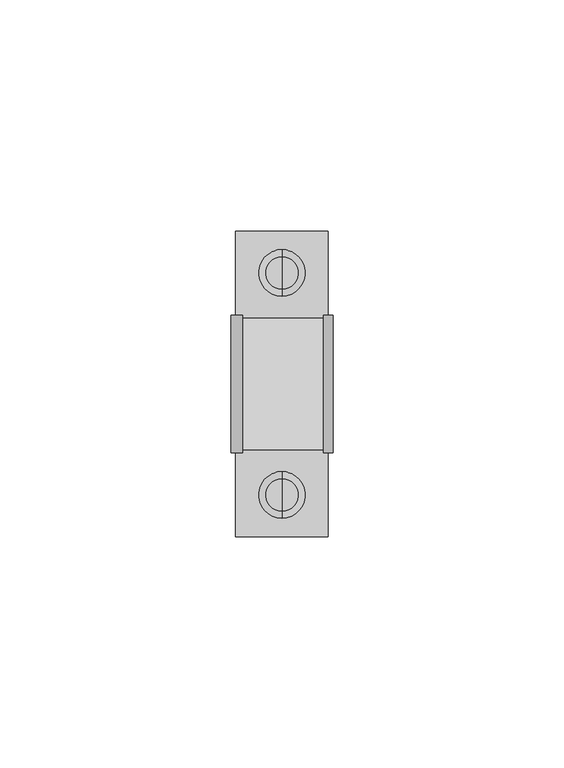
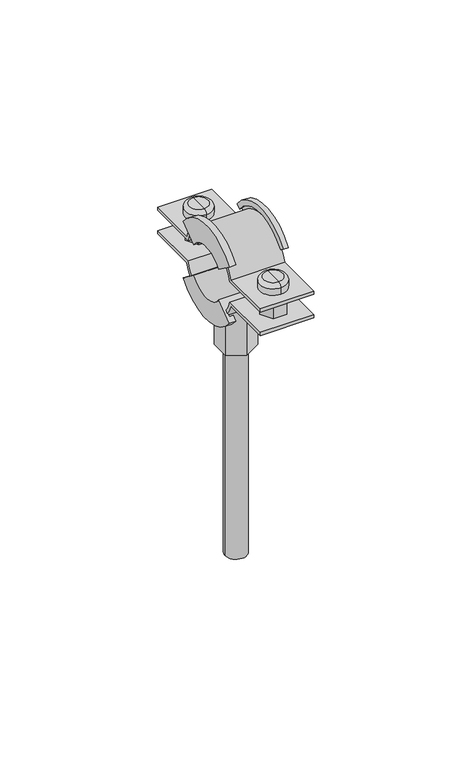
"""IFC4 building model written with IfcOpenShell, lengths in millimetres: pipe fitting geometry, NIRON abrazadera isofonica lisa : Estándard."""

from ifc_helpers import new_model, si_unit, point, frame, origin, origin_2d, place, context, project, spatial, polyline, circle_curve, ellipse_curve, trimmed, segment, composite_curve, outline, extrude, source, transform, mapped, element, save
from ifc_brep_helpers import plane_surface, cylinder_surface, revolved_surface, advanced_brep


def pipe_fitting_fc2bf0e4(model_context):
    return source(origin(), model_context, "Body", "SolidModel", [
        advanced_brep(
        [(0.0, 20.0, -7.8), (0.0, 20.0, -4.8), (0.0, 28.0, -4.8), (0.0, 28.0, -7.8), (0.0, 24.0, -7.8), (0.0, 24.0, -4.8)],
        [
            (0, 1),
            (1, 2, circle_curve(frame((0.0, 24.0, -4.8), z_axis=(0.0, 0.0, -1.0), x_axis=(0.0, 1.0, 0.0)), 4.0)),
            (2, 3),
            (3, 0, circle_curve(frame((0.0, 24.0, -7.8), z_axis=(0.0, 0.0, 1.0), x_axis=(0.0, 1.0, 0.0)), 4.0)),
            (2, 1, circle_curve(frame((0.0, 24.0, -4.8), z_axis=(0.0, 0.0, -1.0), x_axis=(0.0, 1.0, 0.0)), 4.0)),
            (0, 3, circle_curve(frame((0.0, 24.0, -7.8), z_axis=(0.0, 0.0, 1.0), x_axis=(0.0, 1.0, 0.0)), 4.0)),
            (4, 0),
            (3, 4),
            (1, 5),
            (5, 2),
        ],
        [
            cylinder_surface(frame((0.0, 24.0, -110.5332781), z_axis=(0.0, 0.0, -1.0), x_axis=(0.0, 1.0, 0.0)), 4.0),
            plane_surface(frame((0.0, 24.0, -7.8), z_axis=(0.0, 0.0, -1.0), x_axis=(0.0, 1.0, 0.0))),
            plane_surface(frame((0.0, 24.0, -4.8), z_axis=(0.0, 0.0, 1.0), x_axis=(0.0, 1.0, 0.0))),
        ],
        [
            (0, [[1, 2, 3, 4]]),
            (0, [[-3, 5, -1, 6]]),
            (1, [[7, -4, 8]]),
            (1, [[-8, -6, -7]]),
            (2, [[9, 10, -2]]),
            (2, [[-10, -9, -5]]),
        ],
    ),
        advanced_brep(
        [(0.0, 24.0, 4.8), (0.0, 19.0, 4.8), (0.0, 29.0, 4.8), (0.0, 19.0, 7.3), (0.0, 29.0, 7.3), (0.0, 20.5, 8.8), (0.0, 24.0, 8.8), (0.0, 27.5, 8.8)],
        [
            (0, 1),
            (1, 2, circle_curve(frame((0.0, 24.0, 4.8), z_axis=(0.0, 0.0, -1.0), x_axis=(0.0, 1.0, 0.0)), 5.0)),
            (2, 0),
            (2, 1, circle_curve(frame((0.0, 24.0, 4.8), z_axis=(0.0, 0.0, -1.0), x_axis=(0.0, 1.0, 0.0)), 5.0)),
            (1, 3),
            (3, 4, circle_curve(frame((0.0, 24.0, 7.3), z_axis=(0.0, 0.0, -1.0), x_axis=(0.0, 1.0, 0.0)), 5.0)),
            (4, 2),
            (4, 3, circle_curve(frame((0.0, 24.0, 7.3), z_axis=(0.0, 0.0, -1.0), x_axis=(0.0, 1.0, 0.0)), 5.0)),
            (5, 6),
            (6, 7),
            (7, 5, circle_curve(frame((0.0, 24.0, 8.8), z_axis=(0.0, 0.0, 1.0), x_axis=(0.0, 1.0, 0.0)), 3.5)),
            (5, 7, circle_curve(frame((0.0, 24.0, 8.8), z_axis=(0.0, 0.0, 1.0), x_axis=(0.0, 1.0, 0.0)), 3.5)),
            (3, 5, circle_curve(frame((0.0, 20.5, 7.3), z_axis=(-1.0, 0.0, 0.0), x_axis=(0.0, 1.0, 0.0)), 1.5)),
            (7, 4, circle_curve(frame((0.0, 27.5, 7.3), z_axis=(-1.0, 0.0, 0.0), x_axis=(0.0, -1.0, 0.0)), 1.5)),
        ],
        [
            plane_surface(frame((0.0, 24.0, 4.8), z_axis=(0.0, 0.0, -1.0), x_axis=(0.0, 1.0, 0.0))),
            cylinder_surface(frame((0.0, 24.0, 9.8), z_axis=(0.0, 0.0, -1.0), x_axis=(0.0, 1.0, 0.0)), 5.0),
            plane_surface(frame((0.0, 24.0, 8.8), z_axis=(0.0, 0.0, 1.0), x_axis=(0.0, 1.0, 0.0))),
            revolved_surface(trimmed(ellipse_curve(frame((0.0, 27.5, 7.3), z_axis=(-1.0, 0.0, 0.0), x_axis=(0.0, -1.0, 0.0)), 1.5, 1.5), [point((0.0, 27.5, 8.8))], [point((0.0, 29.0, 7.3))], True, "CARTESIAN"), (0.0, 24.0, 9.8), (0.0, 0.0, -1.0)),
        ],
        [
            (0, [[1, 2, 3]]),
            (0, [[-3, 4, -1]]),
            (1, [[5, 6, 7, -2]]),
            (1, [[-7, 8, -5, -4]]),
            (2, [[9, 10, 11]]),
            (2, [[-10, -9, 12]]),
            (3, [[13, -11, 14, -6]]),
            (3, [[-14, -12, -13, -8]]),
        ],
    ),
        advanced_brep(
        [(0.0, -20.0, -7.4875), (0.0, -28.0, -7.4875), (0.0, -28.0, -4.4875), (0.0, -20.0, -4.4875), (0.0, -24.0, -7.4875), (0.0, -24.0, -4.4875)],
        [
            (0, 1, circle_curve(frame((0.0, -24.0, -7.4875), z_axis=(0.0, 0.0, 1.0), x_axis=(0.0, -1.0, 0.0)), 4.0)),
            (1, 2),
            (2, 3, circle_curve(frame((0.0, -24.0, -4.4875), z_axis=(0.0, 0.0, -1.0), x_axis=(0.0, -1.0, 0.0)), 4.0)),
            (3, 0),
            (1, 0, circle_curve(frame((0.0, -24.0, -7.4875), z_axis=(0.0, 0.0, 1.0), x_axis=(0.0, -1.0, 0.0)), 4.0)),
            (3, 2, circle_curve(frame((0.0, -24.0, -4.4875), z_axis=(0.0, 0.0, -1.0), x_axis=(0.0, -1.0, 0.0)), 4.0)),
            (4, 1),
            (0, 4),
            (2, 5),
            (5, 3),
        ],
        [
            cylinder_surface(frame((0.0, -24.0, -110.2207781), z_axis=(0.0, 0.0, -1.0), x_axis=(0.0, -1.0, 0.0)), 4.0),
            plane_surface(frame((0.0, -24.0, -7.4875), z_axis=(0.0, 0.0, -1.0), x_axis=(0.0, -1.0, 0.0))),
            plane_surface(frame((0.0, -24.0, -4.4875), z_axis=(0.0, 0.0, 1.0), x_axis=(0.0, -1.0, 0.0))),
        ],
        [
            (0, [[1, 2, 3, 4]]),
            (0, [[5, -4, 6, -2]]),
            (1, [[7, -1, 8]]),
            (1, [[-8, -5, -7]]),
            (2, [[-3, 9, 10]]),
            (2, [[-6, -10, -9]]),
        ],
    ),
        advanced_brep(
        [(0.0, -24.0, 5.1125), (0.0, -29.0, 5.1125), (0.0, -19.0, 5.1125), (0.0, -29.0, 7.6125), (0.0, -19.0, 7.6125), (0.0, -20.5, 9.1125), (0.0, -27.5, 9.1125), (0.0, -24.0, 9.1125)],
        [
            (0, 1),
            (1, 2, circle_curve(frame((0.0, -24.0, 5.1125), z_axis=(0.0, 0.0, -1.0), x_axis=(0.0, -1.0, 0.0)), 5.0)),
            (2, 0),
            (2, 1, circle_curve(frame((0.0, -24.0, 5.1125), z_axis=(0.0, 0.0, -1.0), x_axis=(0.0, -1.0, 0.0)), 5.0)),
            (1, 3),
            (3, 4, circle_curve(frame((0.0, -24.0, 7.6125), z_axis=(0.0, 0.0, -1.0), x_axis=(0.0, -1.0, 0.0)), 5.0)),
            (4, 2),
            (4, 3, circle_curve(frame((0.0, -24.0, 7.6125), z_axis=(0.0, 0.0, -1.0), x_axis=(0.0, -1.0, 0.0)), 5.0)),
            (5, 6, circle_curve(frame((0.0, -24.0, 9.1125), z_axis=(0.0, 0.0, 1.0), x_axis=(0.0, -1.0, 0.0)), 3.5)),
            (6, 7),
            (7, 5),
            (6, 5, circle_curve(frame((0.0, -24.0, 9.1125), z_axis=(0.0, 0.0, 1.0), x_axis=(0.0, -1.0, 0.0)), 3.5)),
            (3, 6, circle_curve(frame((0.0, -27.5, 7.6125), z_axis=(-1.0, 0.0, 0.0), x_axis=(0.0, 1.0, 0.0)), 1.5)),
            (5, 4, circle_curve(frame((0.0, -20.5, 7.6125), z_axis=(-1.0, 0.0, 0.0), x_axis=(0.0, -1.0, 0.0)), 1.5)),
        ],
        [
            plane_surface(frame((0.0, -24.0, 5.1125), z_axis=(0.0, 0.0, -1.0), x_axis=(0.0, -1.0, 0.0))),
            cylinder_surface(frame((0.0, -24.0, 10.1125), z_axis=(0.0, 0.0, -1.0), x_axis=(0.0, -1.0, 0.0)), 5.0),
            plane_surface(frame((0.0, -24.0, 9.1125), z_axis=(0.0, 0.0, 1.0), x_axis=(0.0, -1.0, 0.0))),
            revolved_surface(trimmed(ellipse_curve(frame((0.0, -27.5, 7.6125), z_axis=(1.0, 0.0, 0.0), x_axis=(0.0, 1.0, 0.0)), 1.5, 1.5), [point((0.0, -27.5, 9.1125))], [point((0.0, -29.0, 7.6125))], True, "CARTESIAN"), (0.0, -24.0, 10.1125), (0.0, 0.0, -1.0)),
        ],
        [
            (0, [[1, 2, 3]]),
            (0, [[-3, 4, -1]]),
            (1, [[-2, 5, 6, 7]]),
            (1, [[-4, -7, 8, -5]]),
            (2, [[9, 10, 11]]),
            (2, [[12, -11, -10]]),
            (3, [[-6, 13, -9, 14]]),
            (3, [[-8, -14, -12, -13]]),
        ],
    ),
        extrude(outline(polyline([(2.5, 19.669873), (-2.5, 19.669873), (-5.0, 24.0), (-2.5, 28.330127), (2.5, 28.330127), (5.0, 24.0), (2.5, 19.669873)])), frame((0.0, 0.0, -4.0), z_axis=(0.0, 0.0, 1.0), x_axis=(1.0, 0.0, 0.0)), (0.0, 0.0, 1.0), 8.0),
        extrude(outline(polyline([(2.5, -19.669873), (5.0, -24.0), (2.5, -28.330127), (-2.5, -28.330127), (-5.0, -24.0), (-2.5, -19.669873), (2.5, -19.669873)])), frame((0.0, 0.0, -4.0), z_axis=(0.0, 0.0, 1.0), x_axis=(1.0, 0.0, 0.0)), (0.0, 0.0, 1.0), 8.0),
        advanced_brep(
        [(11.0, -8.0350101, 6.0), (11.0, -14.8245937, 11.0303136), (9.0, -14.8245937, 11.0303136), (9.0, -13.2175917, 9.8397068), (10.0, -13.2175917, 9.8397068), (10.0, -11.6105896, 8.6491001), (-10.0, -11.6105896, 8.6491001), (-10.0, -13.2175917, 9.8397068), (-8.5466338, -13.2175917, 9.8397068), (-8.5466338, -14.8245937, 11.0303136), (-11.0, -14.8245937, 11.0303136), (-11.0, -8.0350101, 6.0), (11.0, 8.0350101, 6.0), (-11.0, 8.0350101, 6.0), (-11.0, 14.8245937, 11.0303136), (-8.5466338, 14.8245937, 11.0303136), (-8.5466338, 13.2175917, 9.8397068), (-10.0, 13.2175917, 9.8397068), (-10.0, 11.6105896, 8.6491001), (10.0, 11.6105896, 8.6491001), (10.0, 13.2175917, 9.8397068), (9.0, 13.2175917, 9.8397068), (9.0, 14.8245937, 11.0303136), (11.0, 14.8245937, 11.0303136)],
        [
            (0, 1),
            (1, 2),
            (2, 3),
            (3, 4),
            (4, 5),
            (5, 6),
            (6, 7),
            (7, 8),
            (8, 9),
            (9, 10),
            (10, 11),
            (11, 0),
            (12, 13),
            (13, 14),
            (14, 15),
            (15, 16),
            (16, 17),
            (17, 18),
            (18, 19),
            (19, 20),
            (20, 21),
            (21, 22),
            (22, 23),
            (23, 12),
            (12, 0, circle_curve(frame((11.0, 0.0, 0.0469661), z_axis=(1.0, 0.0, 0.0), x_axis=(0.0, -0.8035010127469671, 0.5953033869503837)), 10.0)),
            (11, 13, circle_curve(frame((-11.0, 0.0, 0.0469661), z_axis=(-1.0, 0.0, 0.0), x_axis=(0.0, -0.8035010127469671, 0.5953033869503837)), 10.0)),
            (10, 14, circle_curve(frame((-11.0, 0.0, 0.0469661), z_axis=(-1.0, 0.0, 0.0), x_axis=(0.0, -0.8035010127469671, 0.5953033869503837)), 18.45)),
            (9, 15, circle_curve(frame((-8.5466338, 0.0, 0.0469661), z_axis=(-1.0, 0.0, 0.0), x_axis=(0.0, -0.8035010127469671, 0.5953033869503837)), 18.45)),
            (8, 16, circle_curve(frame((-8.5466338, 0.0, 0.0469661), z_axis=(-1.0, 0.0, 0.0), x_axis=(0.0, -0.8035010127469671, 0.5953033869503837)), 16.45)),
            (7, 17, circle_curve(frame((-10.0, 0.0, 0.0469661), z_axis=(-1.0, 0.0, 0.0), x_axis=(0.0, -0.8035010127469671, 0.5953033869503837)), 16.45)),
            (6, 18, circle_curve(frame((-10.0, 0.0, 0.0469661), z_axis=(-1.0, 0.0, 0.0), x_axis=(0.0, -0.8035010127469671, 0.5953033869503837)), 14.45)),
            (5, 19, circle_curve(frame((10.0, 0.0, 0.0469661), z_axis=(-1.0, 0.0, 0.0), x_axis=(0.0, -0.8035010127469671, 0.5953033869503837)), 14.45)),
            (4, 20, circle_curve(frame((10.0, 0.0, 0.0469661), z_axis=(-1.0, 0.0, 0.0), x_axis=(0.0, -0.8035010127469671, 0.5953033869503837)), 16.45)),
            (3, 21, circle_curve(frame((9.0, 0.0, 0.0469661), z_axis=(-1.0, 0.0, 0.0), x_axis=(0.0, -0.8035010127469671, 0.5953033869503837)), 16.45)),
            (2, 22, circle_curve(frame((9.0, 0.0, 0.0469661), z_axis=(-1.0, 0.0, 0.0), x_axis=(0.0, -0.8035010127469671, 0.5953033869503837)), 18.45)),
            (1, 23, circle_curve(frame((11.0, 0.0, 0.0469661), z_axis=(-1.0, 0.0, 0.0), x_axis=(0.0, -0.8035010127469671, 0.5953033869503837)), 18.45)),
        ],
        [
            plane_surface(frame((0.0, -8.0350101, 6.0), z_axis=(0.0, -0.5953033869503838, -0.8035010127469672), x_axis=(1.0, 0.0, 0.0))),
            plane_surface(frame((0.0, 8.0350101, 6.0), z_axis=(0.0, 0.5953033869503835, -0.8035010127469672), x_axis=(1.0, 0.0, 0.0))),
            revolved_surface(polyline([(-11.0, -8.03501012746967, 5.999999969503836), (11.0, -8.03501012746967, 5.999999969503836)]), (0.0, 0.0, 0.0469661), (-1.0, 0.0, 0.0)),
            plane_surface(frame((-11.0, 0.0, 0.0469661), z_axis=(-1.0000000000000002, 0.0, 0.0), x_axis=(0.0, -0.8035010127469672, 0.5953033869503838))),
            cylinder_surface(frame((0.0, 0.0, 0.0469661), z_axis=(-1.0, 0.0, 0.0), x_axis=(0.0, -0.8035010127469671, 0.5953033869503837)), 18.45),
            plane_surface(frame((-8.5466338, 0.0, 0.0469661), z_axis=(1.0000000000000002, 0.0, 0.0), x_axis=(0.0, -0.8035010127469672, 0.5953033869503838))),
            revolved_surface(polyline([(-10.0, -13.217591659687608, 9.83970681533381), (-8.5466338, -13.217591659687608, 9.83970681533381)]), (0.0, 0.0, 0.0469661), (-1.0, 0.0, 0.0)),
            plane_surface(frame((-10.0, 0.0, 0.0469661), z_axis=(1.0000000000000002, 0.0, 0.0), x_axis=(0.0, -0.8035010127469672, 0.5953033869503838))),
            cylinder_surface(frame((0.0, 0.0, 0.0469661), z_axis=(-1.0, 0.0, 0.0), x_axis=(0.0, -0.8035010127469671, 0.5953033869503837)), 14.45),
            plane_surface(frame((10.0, 0.0, 0.0469661), z_axis=(-1.0000000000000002, 0.0, 0.0), x_axis=(0.0, -0.8035010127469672, 0.5953033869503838))),
            revolved_surface(polyline([(9.0, -13.217591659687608, 9.83970681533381), (10.0, -13.217591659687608, 9.83970681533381)]), (0.0, 0.0, 0.0469661), (-1.0, 0.0, 0.0)),
            plane_surface(frame((9.0, 0.0, 0.0469661), z_axis=(-1.0000000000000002, 0.0, 0.0), x_axis=(0.0, -0.8035010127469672, 0.5953033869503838))),
            plane_surface(frame((11.0, 0.0, 0.0469661), z_axis=(1.0000000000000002, 0.0, 0.0), x_axis=(0.0, -0.8035010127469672, 0.5953033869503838))),
        ],
        [
            (0, [[1, 2, 3, 4, 5, 6, 7, 8, 9, 10, 11, 12]]),
            (1, [[13, 14, 15, 16, 17, 18, 19, 20, 21, 22, 23, 24]]),
            (2, [[25, -12, 26, -13]]),
            (3, [[-26, -11, 27, -14]]),
            (4, [[-27, -10, 28, -15]]),
            (5, [[-28, -9, 29, -16]]),
            (6, [[-29, -8, 30, -17]]),
            (7, [[-30, -7, 31, -18]]),
            (8, [[-31, -6, 32, -19]]),
            (9, [[-32, -5, 33, -20]]),
            (10, [[-33, -4, 34, -21]]),
            (11, [[-34, -3, 35, -22]]),
            (4, [[-35, -2, 36, -23]]),
            (12, [[-36, -1, -25, -24]]),
        ],
    ),
        extrude(outline(composite_curve([segment(trimmed(circle_curve(origin_2d(), 14.0), [point((-13.4164079, -4.0))], [point((13.4164079, -4.0))], True, "CARTESIAN"), True, "CONTINUOUS"), segment(polyline([(13.4164079, -4.0), (33.0, -4.0), (33.0, -5.25), (14.3178211, -5.25)]), True, "CONTINUOUS"), segment(trimmed(circle_curve(origin_2d(), 15.25), [point((14.3178211, -5.25))], [point((-14.3178211, -5.25))], False, "CARTESIAN"), True, "CONTINUOUS"), segment(polyline([(-14.3178211, -5.25), (-33.0, -5.25), (-33.0, -4.0), (-13.4164079, -4.0)]), True, "CONTINUOUS")], self_intersect=False)), frame((-10.0, 0.0, 0.0), z_axis=(1.0, 0.0, 0.0), x_axis=(0.0, 1.0, 0.0)), (0.0, 0.0, 1.0), 20.0),
        advanced_brep(
        [(11.0, -8.0, -6.0), (-11.0, -8.0, -6.0), (-11.0, -14.76, -11.07), (-8.5466338, -14.76, -11.07), (-8.5466338, -13.16, -9.87), (-10.0, -13.16, -9.87), (-10.0, -11.56, -8.67), (10.0, -11.56, -8.67), (10.0, -13.16, -9.87), (9.0, -13.16, -9.87), (9.0, -14.76, -11.07), (11.0, -14.76, -11.07), (11.0, 8.0, -6.0), (11.0, 14.76, -11.07), (9.0, 14.76, -11.07), (9.0, 13.16, -9.87), (10.0, 13.16, -9.87), (10.0, 11.56, -8.67), (-10.0, 11.56, -8.67), (-10.0, 13.16, -9.87), (-8.5466338, 13.16, -9.87), (-8.5466338, 14.76, -11.07), (-11.0, 14.76, -11.07), (-11.0, 8.0, -6.0)],
        [
            (0, 1),
            (1, 2),
            (2, 3),
            (3, 4),
            (4, 5),
            (5, 6),
            (6, 7),
            (7, 8),
            (8, 9),
            (9, 10),
            (10, 11),
            (11, 0),
            (12, 13),
            (13, 14),
            (14, 15),
            (15, 16),
            (16, 17),
            (17, 18),
            (18, 19),
            (19, 20),
            (20, 21),
            (21, 22),
            (22, 23),
            (23, 12),
            (23, 1, circle_curve(frame((-11.0, 0.0, 0.0), z_axis=(-1.0, 0.0, 0.0), x_axis=(0.0, -0.8000000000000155, -0.5999999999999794)), 10.0)),
            (0, 12, circle_curve(frame((11.0, 0.0, 0.0), z_axis=(1.0, 0.0, 0.0), x_axis=(0.0, -0.8000000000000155, -0.5999999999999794)), 10.0)),
            (22, 2, circle_curve(frame((-11.0, 0.0, 0.0), z_axis=(-1.0, 0.0, 0.0), x_axis=(0.0, -0.8000000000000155, -0.5999999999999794)), 18.45)),
            (21, 3, circle_curve(frame((-8.5466338, 0.0, 0.0), z_axis=(-1.0, 0.0, 0.0), x_axis=(0.0, -0.8000000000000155, -0.5999999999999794)), 18.45)),
            (20, 4, circle_curve(frame((-8.5466338, 0.0, 0.0), z_axis=(-1.0, 0.0, 0.0), x_axis=(0.0, -0.8000000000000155, -0.5999999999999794)), 16.45)),
            (19, 5, circle_curve(frame((-10.0, 0.0, 0.0), z_axis=(-1.0, 0.0, 0.0), x_axis=(0.0, -0.8000000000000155, -0.5999999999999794)), 16.45)),
            (18, 6, circle_curve(frame((-10.0, 0.0, 0.0), z_axis=(-1.0, 0.0, 0.0), x_axis=(0.0, -0.8000000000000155, -0.5999999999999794)), 14.45)),
            (17, 7, circle_curve(frame((10.0, 0.0, 0.0), z_axis=(-1.0, 0.0, 0.0), x_axis=(0.0, -0.8000000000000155, -0.5999999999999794)), 14.45)),
            (16, 8, circle_curve(frame((10.0, 0.0, 0.0), z_axis=(-1.0, 0.0, 0.0), x_axis=(0.0, -0.8000000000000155, -0.5999999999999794)), 16.45)),
            (15, 9, circle_curve(frame((9.0, 0.0, 0.0), z_axis=(-1.0, 0.0, 0.0), x_axis=(0.0, -0.8000000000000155, -0.5999999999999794)), 16.45)),
            (14, 10, circle_curve(frame((9.0, 0.0, 0.0), z_axis=(-1.0, 0.0, 0.0), x_axis=(0.0, -0.8000000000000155, -0.5999999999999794)), 18.45)),
            (13, 11, circle_curve(frame((11.0, 0.0, 0.0), z_axis=(-1.0, 0.0, 0.0), x_axis=(0.0, -0.8000000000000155, -0.5999999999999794)), 18.45)),
        ],
        [
            plane_surface(frame((0.0, -8.0, -6.0), z_axis=(0.0, -0.5999999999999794, 0.8000000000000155), x_axis=(1.0, 0.0, 0.0))),
            plane_surface(frame((0.0, 8.0, -6.0), z_axis=(0.0, 0.5999999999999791, 0.8000000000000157), x_axis=(1.0, 0.0, 0.0))),
            revolved_surface(polyline([(11.0, -8.000000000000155, -5.999999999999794), (-11.0, -8.000000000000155, -5.999999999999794)]), (0.0, 0.0, 0.0), (1.0, 0.0, 0.0)),
            plane_surface(frame((-11.0, 0.0, 0.0), z_axis=(-1.0, 0.0, 0.0), x_axis=(0.0, -0.8000000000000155, -0.5999999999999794))),
            cylinder_surface(frame((0.0, 0.0, 0.0), z_axis=(1.0, 0.0, 0.0), x_axis=(0.0, -0.8000000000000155, -0.5999999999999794)), 18.45),
            plane_surface(frame((-8.5466338, 0.0, 0.0), z_axis=(1.0, 0.0, 0.0), x_axis=(0.0, -0.8000000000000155, -0.5999999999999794))),
            revolved_surface(polyline([(-8.5466338, -13.160000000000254, -9.869999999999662), (-10.0, -13.160000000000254, -9.869999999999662)]), (0.0, 0.0, 0.0), (1.0, 0.0, 0.0)),
            plane_surface(frame((-10.0, 0.0, 0.0), z_axis=(1.0, 0.0, 0.0), x_axis=(0.0, -0.8000000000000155, -0.5999999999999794))),
            cylinder_surface(frame((0.0, 0.0, 0.0), z_axis=(1.0, 0.0, 0.0), x_axis=(0.0, -0.8000000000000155, -0.5999999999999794)), 14.45),
            plane_surface(frame((10.0, 0.0, 0.0), z_axis=(-1.0, 0.0, 0.0), x_axis=(0.0, -0.8000000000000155, -0.5999999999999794))),
            revolved_surface(polyline([(10.0, -13.160000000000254, -9.869999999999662), (9.0, -13.160000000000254, -9.869999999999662)]), (0.0, 0.0, 0.0), (1.0, 0.0, 0.0)),
            plane_surface(frame((9.0, 0.0, 0.0), z_axis=(-1.0, 0.0, 0.0), x_axis=(0.0, -0.8000000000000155, -0.5999999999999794))),
            plane_surface(frame((11.0, 0.0, 0.0), z_axis=(1.0, 0.0, 0.0), x_axis=(0.0, -0.8000000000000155, -0.5999999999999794))),
        ],
        [
            (0, [[1, 2, 3, 4, 5, 6, 7, 8, 9, 10, 11, 12]]),
            (1, [[13, 14, 15, 16, 17, 18, 19, 20, 21, 22, 23, 24]]),
            (2, [[25, -1, 26, -24]]),
            (3, [[27, -2, -25, -23]]),
            (4, [[28, -3, -27, -22]]),
            (5, [[29, -4, -28, -21]]),
            (6, [[30, -5, -29, -20]]),
            (7, [[31, -6, -30, -19]]),
            (8, [[32, -7, -31, -18]]),
            (9, [[33, -8, -32, -17]]),
            (10, [[34, -9, -33, -16]]),
            (11, [[35, -10, -34, -15]]),
            (4, [[36, -11, -35, -14]]),
            (12, [[-26, -12, -36, -13]]),
        ],
    ),
        extrude(outline(composite_curve([segment(trimmed(circle_curve(origin_2d(), 15.25), [point((-14.3178211, 5.25))], [point((14.3178211, 5.25))], False, "CARTESIAN"), True, "CONTINUOUS"), segment(polyline([(14.3178211, 5.25), (33.0, 5.25), (33.0, 4.0), (13.4164079, 4.0)]), True, "CONTINUOUS"), segment(trimmed(circle_curve(origin_2d(), 14.0), [point((13.4164079, 4.0))], [point((-13.4164079, 4.0))], True, "CARTESIAN"), True, "CONTINUOUS"), segment(polyline([(-13.4164079, 4.0), (-33.0, 4.0), (-33.0, 5.25), (-14.3178211, 5.25)]), True, "CONTINUOUS")], self_intersect=False)), frame((-10.0, 0.0, 0.0), z_axis=(1.0, 0.0, 0.0), x_axis=(0.0, 1.0, 0.0)), (0.0, 0.0, 1.0), 20.0),
        extrude(outline(composite_curve([segment(trimmed(circle_curve(origin_2d(), 4.0), [point((-4.0, 0.0))], [point((4.0, 0.0))], False, "CARTESIAN"), True, "CONTINUOUS"), segment(trimmed(circle_curve(origin_2d(), 4.0), [point((4.0, 0.0))], [point((-4.0, 0.0))], False, "CARTESIAN"), True, "CONTINUOUS")], self_intersect=False)), frame((0.0, 0.0, -114.0), z_axis=(0.0, 0.0, 1.0), x_axis=(1.0, 0.0, 0.0)), (0.0, 0.0, 1.0), 100.0),
        extrude(outline(polyline([(-6.0621778, 3.5), (0.0, 7.0), (6.0621778, 3.5), (6.0621778, -3.5), (0.0, -7.0), (-6.0621778, -3.5), (-6.0621778, 3.5)])), frame((0.0, 0.0, -32.2), z_axis=(0.0, 0.0, 1.0), x_axis=(1.0, 0.0, 0.0)), (0.0, 0.0, 1.0), 18.2),
    ])


if __name__ == "__main__":
    model = new_model("IFC4")
    model_context = context("Model", 3, world=origin())
    ifc_project = project(units=[si_unit("LENGTHUNIT", "METRE", prefix="MILLI")], contexts=[model_context])
    site = spatial("IfcSite", under=ifc_project)
    building = spatial("IfcBuilding", under=site)
    placement = place(None, origin())
    pipe_fitting_shape = pipe_fitting_fc2bf0e4(model_context)
    element("IfcPipeFitting", 1, ObjectType="NIRON abrazadera isofonica lisa : Estándard", at=placement, inside=building, context=model_context, shape_type="MappedRepresentation", body=[
        mapped(pipe_fitting_shape, transform((0.0, 0.0, 0.0), x_axis=(1.0, 0.0, 0.0), y_axis=(0.0, 1.0, 0.0), z_axis=(0.0, 0.0, 1.0))),
    ])
    save(model, "model.ifc")
